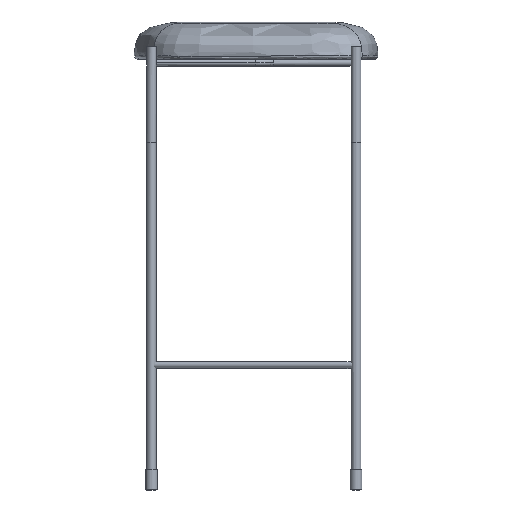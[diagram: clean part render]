
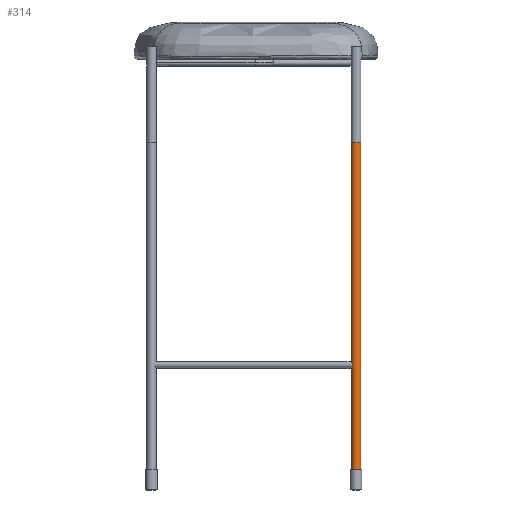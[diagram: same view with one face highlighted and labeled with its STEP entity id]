
A CAD part, left-side view. The second image highlights one B-rep face of the part: STEP entity #314.
In plain terms, the highlighted free-form (B-spline) face has degree [2, 1] with [9, 2] control points.
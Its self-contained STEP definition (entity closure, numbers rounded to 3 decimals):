
#314=ADVANCED_FACE('',(#430),#1832,.T.);
#430=FACE_OUTER_BOUND('',#546,.T.);
#546=EDGE_LOOP('',(#747,#748,#749,#750));
#747=ORIENTED_EDGE('',*,*,#1193,.F.);
#748=ORIENTED_EDGE('',*,*,#1190,.F.);
#749=ORIENTED_EDGE('',*,*,#1191,.T.);
#750=ORIENTED_EDGE('',*,*,#1194,.F.);
#1190=EDGE_CURVE('',#1670,#1668,#1403,.T.);
#1191=EDGE_CURVE('',#1670,#1669,#1520,.T.);
#1193=EDGE_CURVE('',#1668,#1667,#1522,.T.);
#1194=EDGE_CURVE('',#1667,#1669,#1404,.T.);
#1403=B_SPLINE_CURVE_WITH_KNOTS('',1,(#3094,#3095),.UNSPECIFIED.,.F.,.F.,
(2,2),(74.12,574.821),.UNSPECIFIED.);
#1404=B_SPLINE_CURVE_WITH_KNOTS('',1,(#3115,#3116),.UNSPECIFIED.,.F.,.F.,
(2,2),(239.299,740.),.UNSPECIFIED.);
#1520=(
BOUNDED_CURVE()
B_SPLINE_CURVE(2,(#3096,#3097,#3098,#3099,#3100,#3101,#3102),
 .UNSPECIFIED.,.F.,.F.)
B_SPLINE_CURVE_WITH_KNOTS((3,2,2,3),(10.996,21.991,
32.987,43.982),.UNSPECIFIED.)
CURVE()
GEOMETRIC_REPRESENTATION_ITEM()
RATIONAL_B_SPLINE_CURVE((1.,0.707,1.,0.707,1.,0.707,
1.))
REPRESENTATION_ITEM('')
);
#1522=(
BOUNDED_CURVE()
B_SPLINE_CURVE(2,(#3106,#3107,#3108,#3109,#3110,#3111,#3112,#3113,#3114),
 .UNSPECIFIED.,.F.,.F.)
B_SPLINE_CURVE_WITH_KNOTS((3,2,2,2,3),(0.,1.178,2.356,
3.534,4.712),.UNSPECIFIED.)
CURVE()
GEOMETRIC_REPRESENTATION_ITEM()
RATIONAL_B_SPLINE_CURVE((1.,0.831,1.,0.831,1.,0.831,
1.,0.831,1.))
REPRESENTATION_ITEM('')
);
#1667=VERTEX_POINT('',#3035);
#1668=VERTEX_POINT('',#3036);
#1669=VERTEX_POINT('',#3037);
#1670=VERTEX_POINT('',#3038);
#1832=(
BOUNDED_SURFACE()
B_SPLINE_SURFACE(2,1,((#3013,#3014),(#3015,#3016),(#3017,#3018),(#3019,
#3020),(#3021,#3022),(#3023,#3024),(#3025,#3026),(#3027,#3028),(#3029,#3030)),
 .UNSPECIFIED.,.T.,.F.,.F.)
B_SPLINE_SURFACE_WITH_KNOTS((3,2,2,2,3),(2,2),(0.,1.571,3.142,
4.712,6.283),(0.,888.24),.UNSPECIFIED.)
GEOMETRIC_REPRESENTATION_ITEM()
RATIONAL_B_SPLINE_SURFACE(((1.,1.),(0.707,0.707),
(1.,1.),(0.707,0.707),(1.,1.),(0.707,
0.707),(1.,1.),(0.707,0.707),(1.,1.)))
REPRESENTATION_ITEM('')
SURFACE()
);
#3013=CARTESIAN_POINT('',(-253.759,-79.235,-74.12));
#3014=CARTESIAN_POINT('',(-253.759,-79.235,814.12));
#3015=CARTESIAN_POINT('',(-253.759,-72.235,-74.12));
#3016=CARTESIAN_POINT('',(-253.759,-72.235,814.12));
#3017=CARTESIAN_POINT('',(-260.759,-72.235,-74.12));
#3018=CARTESIAN_POINT('',(-260.759,-72.235,814.12));
#3019=CARTESIAN_POINT('',(-267.759,-72.235,-74.12));
#3020=CARTESIAN_POINT('',(-267.759,-72.235,814.12));
#3021=CARTESIAN_POINT('',(-267.759,-79.235,-74.12));
#3022=CARTESIAN_POINT('',(-267.759,-79.235,814.12));
#3023=CARTESIAN_POINT('',(-267.759,-86.235,-74.12));
#3024=CARTESIAN_POINT('',(-267.759,-86.235,814.12));
#3025=CARTESIAN_POINT('',(-260.759,-86.235,-74.12));
#3026=CARTESIAN_POINT('',(-260.759,-86.235,814.12));
#3027=CARTESIAN_POINT('',(-253.759,-86.235,-74.12));
#3028=CARTESIAN_POINT('',(-253.759,-86.235,814.12));
#3029=CARTESIAN_POINT('',(-253.759,-79.235,-74.12));
#3030=CARTESIAN_POINT('',(-253.759,-79.235,814.12));
#3035=CARTESIAN_POINT('',(-260.759,-86.235,500.701));
#3036=CARTESIAN_POINT('',(-253.759,-79.235,500.701));
#3037=CARTESIAN_POINT('',(-260.759,-86.235,0.));
#3038=CARTESIAN_POINT('',(-253.759,-79.235,0.));
#3094=CARTESIAN_POINT('',(-253.759,-79.235,0.));
#3095=CARTESIAN_POINT('',(-253.759,-79.235,500.701));
#3096=CARTESIAN_POINT('',(-253.759,-79.235,0.));
#3097=CARTESIAN_POINT('',(-253.759,-72.235,0.));
#3098=CARTESIAN_POINT('',(-260.759,-72.235,0.));
#3099=CARTESIAN_POINT('',(-267.759,-72.235,0.));
#3100=CARTESIAN_POINT('',(-267.759,-79.235,0.));
#3101=CARTESIAN_POINT('',(-267.759,-86.235,0.));
#3102=CARTESIAN_POINT('',(-260.759,-86.235,0.));
#3106=CARTESIAN_POINT('',(-253.759,-79.235,500.701));
#3107=CARTESIAN_POINT('',(-253.759,-74.557,500.701));
#3108=CARTESIAN_POINT('',(-258.081,-72.767,500.701));
#3109=CARTESIAN_POINT('',(-262.402,-70.977,500.701));
#3110=CARTESIAN_POINT('',(-265.71,-74.285,500.701));
#3111=CARTESIAN_POINT('',(-269.017,-77.592,500.701));
#3112=CARTESIAN_POINT('',(-267.227,-81.914,500.701));
#3113=CARTESIAN_POINT('',(-265.437,-86.235,500.701));
#3114=CARTESIAN_POINT('',(-260.759,-86.235,500.701));
#3115=CARTESIAN_POINT('',(-260.759,-86.235,500.701));
#3116=CARTESIAN_POINT('',(-260.759,-86.235,0.));
